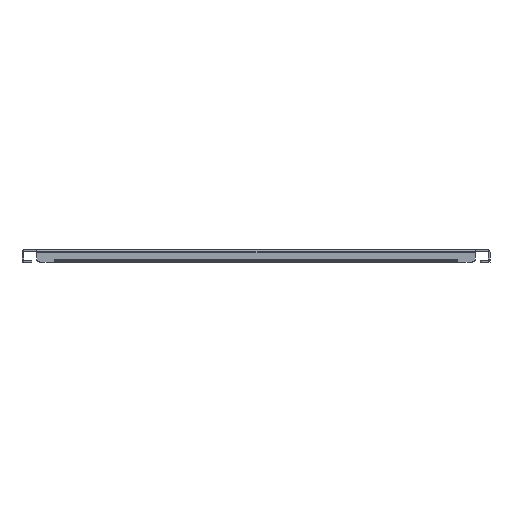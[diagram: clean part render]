
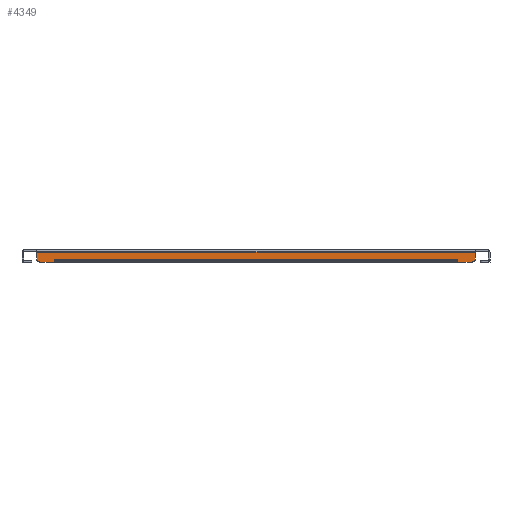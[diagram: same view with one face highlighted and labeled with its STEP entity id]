
A CAD part, front view. The second image highlights one B-rep face of the part: STEP entity #4349.
In plain terms, the highlighted planar face has unit normal (0, -1, 0).
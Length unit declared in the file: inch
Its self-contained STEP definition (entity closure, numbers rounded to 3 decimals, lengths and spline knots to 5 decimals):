
#141=PLANE('',#4746);
#317=FACE_OUTER_BOUND('',#593,.T.);
#593=EDGE_LOOP('',(#3601,#3602,#3603,#3604,#3605,#3606,#3607,#3608,#3609,
#3610,#3611,#3612,#3613,#3614));
#932=LINE('',#6900,#1378);
#952=LINE('',#6968,#1398);
#970=LINE('',#7029,#1416);
#973=LINE('',#7034,#1419);
#974=LINE('',#7038,#1420);
#975=LINE('',#7040,#1421);
#976=LINE('',#7042,#1422);
#977=LINE('',#7044,#1423);
#978=LINE('',#7046,#1424);
#979=LINE('',#7048,#1425);
#980=LINE('',#7050,#1426);
#981=LINE('',#7051,#1427);
#1378=VECTOR('',#5605,0.3937);
#1398=VECTOR('',#5659,0.3937);
#1416=VECTOR('',#5709,0.3937);
#1419=VECTOR('',#5714,0.3937);
#1420=VECTOR('',#5717,0.3937);
#1421=VECTOR('',#5718,0.3937);
#1422=VECTOR('',#5719,0.3937);
#1423=VECTOR('',#5720,0.3937);
#1424=VECTOR('',#5721,0.3937);
#1425=VECTOR('',#5722,0.3937);
#1426=VECTOR('',#5723,0.3937);
#1427=VECTOR('',#5724,0.3937);
#1725=CIRCLE('',#4744,0.125);
#1726=CIRCLE('',#4747,0.125);
#2028=VERTEX_POINT('',#6897);
#2029=VERTEX_POINT('',#6899);
#2059=VERTEX_POINT('',#6965);
#2060=VERTEX_POINT('',#6967);
#2086=VERTEX_POINT('',#7024);
#2087=VERTEX_POINT('',#7028);
#2089=VERTEX_POINT('',#7035);
#2090=VERTEX_POINT('',#7037);
#2091=VERTEX_POINT('',#7039);
#2092=VERTEX_POINT('',#7041);
#2093=VERTEX_POINT('',#7043);
#2094=VERTEX_POINT('',#7045);
#2095=VERTEX_POINT('',#7047);
#2096=VERTEX_POINT('',#7049);
#2566=EDGE_CURVE('',#2029,#2028,#932,.T.);
#2600=EDGE_CURVE('',#2060,#2059,#952,.T.);
#2629=EDGE_CURVE('',#2060,#2086,#1725,.T.);
#2631=EDGE_CURVE('',#2087,#2086,#970,.T.);
#2634=EDGE_CURVE('',#2029,#2059,#973,.T.);
#2635=EDGE_CURVE('',#2089,#2028,#1726,.T.);
#2636=EDGE_CURVE('',#2089,#2090,#974,.T.);
#2637=EDGE_CURVE('',#2090,#2091,#975,.T.);
#2638=EDGE_CURVE('',#2091,#2092,#976,.T.);
#2639=EDGE_CURVE('',#2092,#2093,#977,.T.);
#2640=EDGE_CURVE('',#2093,#2094,#978,.T.);
#2641=EDGE_CURVE('',#2094,#2095,#979,.T.);
#2642=EDGE_CURVE('',#2095,#2096,#980,.T.);
#2643=EDGE_CURVE('',#2096,#2087,#981,.T.);
#3601=ORIENTED_EDGE('',*,*,#2629,.F.);
#3602=ORIENTED_EDGE('',*,*,#2600,.T.);
#3603=ORIENTED_EDGE('',*,*,#2634,.F.);
#3604=ORIENTED_EDGE('',*,*,#2566,.T.);
#3605=ORIENTED_EDGE('',*,*,#2635,.F.);
#3606=ORIENTED_EDGE('',*,*,#2636,.T.);
#3607=ORIENTED_EDGE('',*,*,#2637,.T.);
#3608=ORIENTED_EDGE('',*,*,#2638,.T.);
#3609=ORIENTED_EDGE('',*,*,#2639,.T.);
#3610=ORIENTED_EDGE('',*,*,#2640,.T.);
#3611=ORIENTED_EDGE('',*,*,#2641,.T.);
#3612=ORIENTED_EDGE('',*,*,#2642,.T.);
#3613=ORIENTED_EDGE('',*,*,#2643,.T.);
#3614=ORIENTED_EDGE('',*,*,#2631,.T.);
#4349=ADVANCED_FACE('',(#317),#141,.F.);
#4744=AXIS2_PLACEMENT_3D('',#7025,#5704,#5705);
#4746=AXIS2_PLACEMENT_3D('',#7033,#5712,#5713);
#4747=AXIS2_PLACEMENT_3D('',#7036,#5715,#5716);
#5605=DIRECTION('',(0.,0.,-1.));
#5659=DIRECTION('',(0.,0.,1.));
#5704=DIRECTION('center_axis',(0.,1.,0.));
#5705=DIRECTION('ref_axis',(0.707,0.,-0.707));
#5709=DIRECTION('',(1.,0.,0.));
#5712=DIRECTION('center_axis',(0.,1.,0.));
#5713=DIRECTION('ref_axis',(0.,0.,1.));
#5714=DIRECTION('',(1.,0.,0.));
#5715=DIRECTION('center_axis',(0.,1.,0.));
#5716=DIRECTION('ref_axis',(-0.707,0.,-0.707));
#5717=DIRECTION('',(1.,0.,0.));
#5718=DIRECTION('',(0.,0.,1.));
#5719=DIRECTION('',(1.,0.,0.));
#5720=DIRECTION('',(0.,0.,-1.));
#5721=DIRECTION('',(1.,0.,0.));
#5722=DIRECTION('',(0.,0.,1.));
#5723=DIRECTION('',(1.,0.,0.));
#5724=DIRECTION('',(0.,0.,-1.));
#6897=CARTESIAN_POINT('',(-9.294,-19.,-0.319));
#6899=CARTESIAN_POINT('',(-9.294,-19.,-0.031));
#6900=CARTESIAN_POINT('',(-9.294,-19.,0.068));
#6965=CARTESIAN_POINT('',(9.294,-19.,-0.031));
#6967=CARTESIAN_POINT('',(9.294,-19.,-0.319));
#6968=CARTESIAN_POINT('',(9.294,-19.,-0.444));
#7024=CARTESIAN_POINT('',(9.169,-19.,-0.444));
#7025=CARTESIAN_POINT('Origin',(9.169,-19.,-0.319));
#7028=CARTESIAN_POINT('',(8.5442,-19.,-0.444));
#7029=CARTESIAN_POINT('',(-9.294,-19.,-0.444));
#7033=CARTESIAN_POINT('Origin',(0.,-19.,-0.188));
#7034=CARTESIAN_POINT('',(9.294,-19.,-0.031));
#7035=CARTESIAN_POINT('',(-9.169,-19.,-0.444));
#7036=CARTESIAN_POINT('Origin',(-9.169,-19.,-0.319));
#7037=CARTESIAN_POINT('',(-8.5442,-19.,-0.444));
#7038=CARTESIAN_POINT('',(-9.294,-19.,-0.444));
#7039=CARTESIAN_POINT('',(-8.5442,-19.,-0.3448));
#7040=CARTESIAN_POINT('',(-8.5442,-19.,-0.316));
#7041=CARTESIAN_POINT('',(-8.544,-19.,-0.3448));
#7042=CARTESIAN_POINT('',(-4.2721,-19.,-0.3448));
#7043=CARTESIAN_POINT('',(-8.544,-19.,-0.345));
#7044=CARTESIAN_POINT('',(-8.544,-19.,-0.2664));
#7045=CARTESIAN_POINT('',(8.544,-19.,-0.345));
#7046=CARTESIAN_POINT('',(4.272,-19.,-0.345));
#7047=CARTESIAN_POINT('',(8.544,-19.,-0.3448));
#7048=CARTESIAN_POINT('',(8.544,-19.,-0.316));
#7049=CARTESIAN_POINT('',(8.5442,-19.,-0.3448));
#7050=CARTESIAN_POINT('',(4.272,-19.,-0.3448));
#7051=CARTESIAN_POINT('',(8.5442,-19.,-0.2664));
